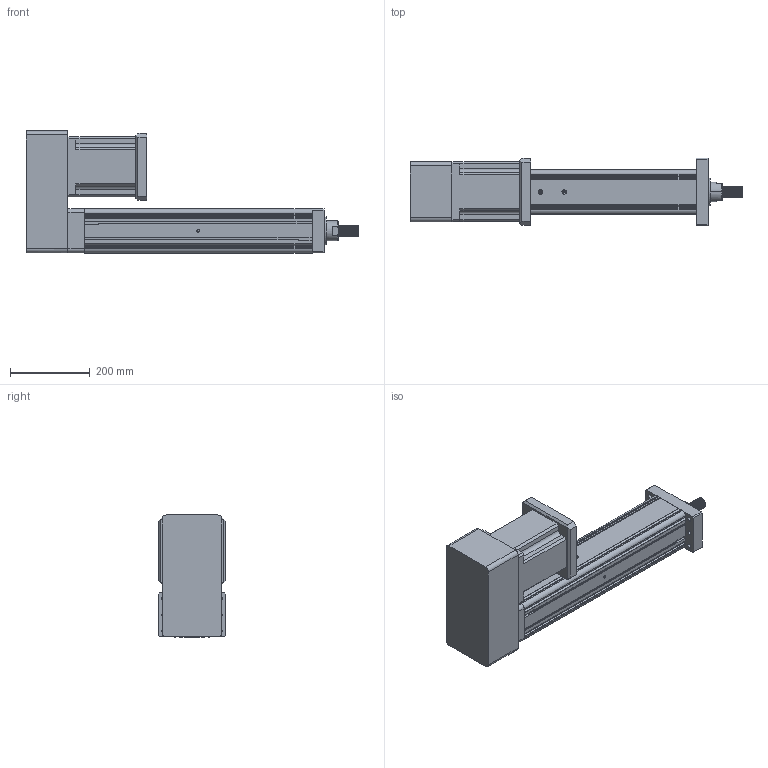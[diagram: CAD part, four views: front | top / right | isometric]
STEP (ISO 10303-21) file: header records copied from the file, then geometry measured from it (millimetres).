
FILE_DESCRIPTION (( 'STEP AP203' ), '1' );
FILE_NAME ('YRJ110-L400-H3K1.STEP', '2020-01-04T06:30:19', ( 'User' ), ( 'China' ), 'SwSTEP 2.0', 'SolidWorks 2016', '' );
FILE_SCHEMA (( 'CONFIG_CONTROL_DESIGN' ));
Length unit declared in the file: millimetre
Products named in the file (7): H3-110-2; K1-110; 095-100俴最倰第; 萇儂碟-110; YRJ110-L400-H3K1; 142熬厒儂; H3-110-1
Assembly tree (6 placements, depth 2):
  YRJ110-L400-H3K1
    095-100俴最倰第
    萇儂碟-110
    142熬厒儂
    H3-110-1
    H3-110-2
    K1-110
Bounding box: 831 x 170 x 305.5 mm (x, y, z)
Volume: 12320210.9 mm3; surface area: 1001881 mm2
Topology: 6 solids, 6 shells, 359 faces, 1001 edges, 648 vertices
Faces by surface type: plane 168, cylinder 160, cone 27, bspline 4
Entity records: 20190 total; most frequent: CARTESIAN_POINT 10350, ORIENTED_EDGE 1970, DIRECTION 1827, EDGE_CURVE 985, VERTEX_POINT 648, VECTOR 617, LINE 617, AXIS2_PLACEMENT_3D 605
